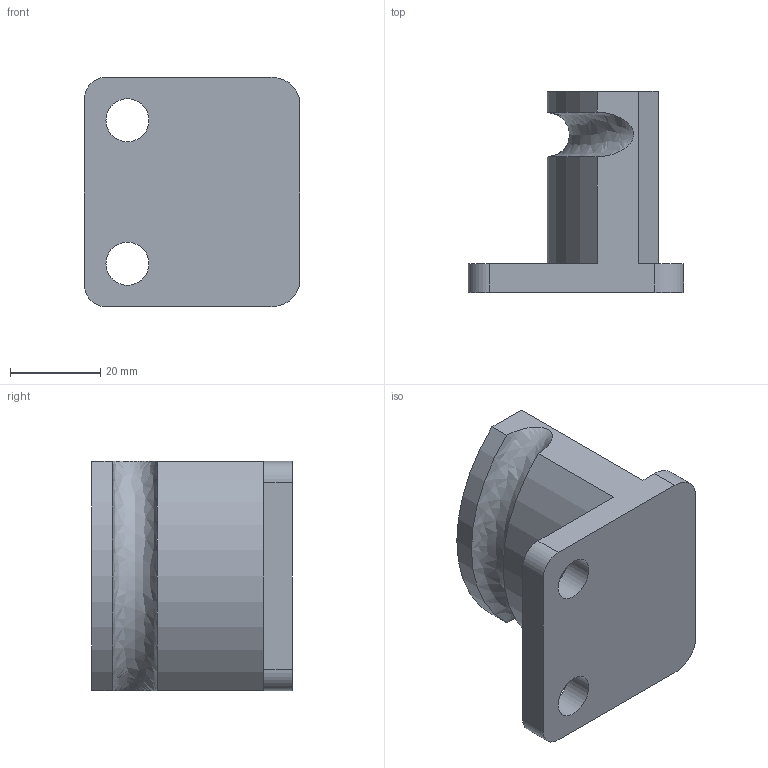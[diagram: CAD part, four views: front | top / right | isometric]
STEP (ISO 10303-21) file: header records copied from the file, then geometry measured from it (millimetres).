
FILE_DESCRIPTION((' '),'2;1');
FILE_NAME('C:\Users\Nick\Desktop\PCU-Sereis\LPCU-2000\3D\LPCU-2000.stp','2015-07-24T11:29:09',(' '),(' '),' ','ACIS',' ');
FILE_SCHEMA(('CONFIG_CONTROL_DESIGN'));
Length unit declared in the file: inch
Products named in the file (1): C:\Users\Nick\Desktop\PCU-Sereis\LPCU-2000\3D\LPCU-2000.stp
Bounding box: 47.62 x 44.44 x 50.8 mm (x, y, z)
Volume: 41856.4 mm3; surface area: 11484.8 mm2
Topology: 1 solids, 1 shells, 22 faces, 60 edges, 40 vertices
Faces by surface type: plane 12, cylinder 9, bspline 1
Full cylindrical faces by diameter (mm): 9.525 x2
Entity records: 889 total; most frequent: CARTESIAN_POINT 207, DIRECTION 120, ORIENTED_EDGE 116, EDGE_CURVE 58, AXIS2_PLACEMENT_3D 42, VERTEX_POINT 40, VECTOR 36, LINE 36
